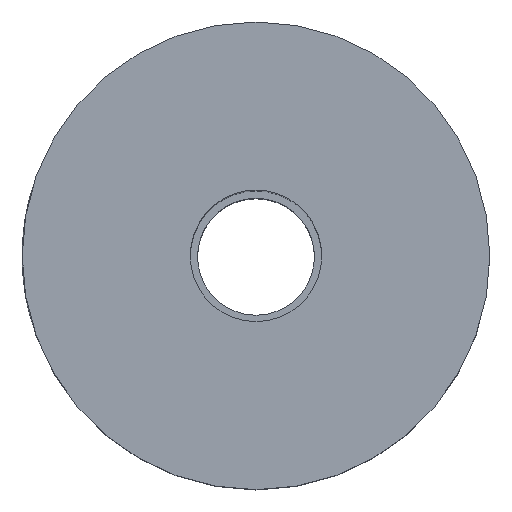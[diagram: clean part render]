
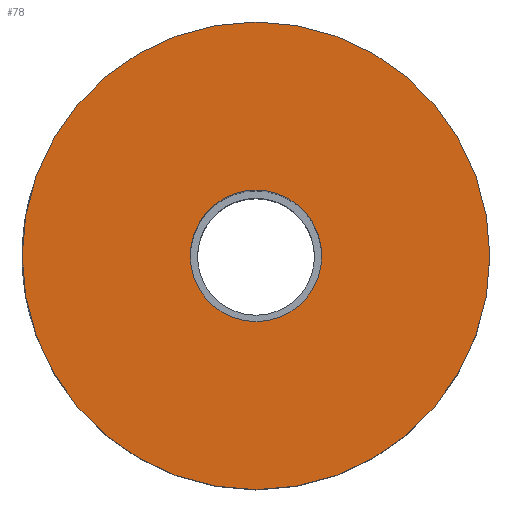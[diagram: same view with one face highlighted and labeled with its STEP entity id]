
A CAD part, top view. The second image highlights one B-rep face of the part: STEP entity #78.
In plain terms, the highlighted planar face has unit normal (0, 0, 1).
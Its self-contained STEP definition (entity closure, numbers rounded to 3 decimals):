
#37 = PLANE ( 'NONE',  #483 ) ;
#38 = EDGE_LOOP ( 'NONE', ( #229, #125 ) ) ;
#65 = CIRCLE ( 'NONE', #302, 2.25 ) ;
#78 = ADVANCED_FACE ( 'NONE', ( #370, #100 ), #37, .F. ) ;
#88 = EDGE_LOOP ( 'NONE', ( #418, #625 ) ) ;
#92 = CARTESIAN_POINT ( 'NONE',  ( 2.25, 0., 0. ) ) ;
#97 = CARTESIAN_POINT ( 'NONE',  ( 0., 0., 0. ) ) ;
#100 = FACE_OUTER_BOUND ( 'NONE', #38, .T. ) ;
#125 = ORIENTED_EDGE ( 'NONE', *, *, #471, .T. ) ;
#139 = AXIS2_PLACEMENT_3D ( 'NONE', #97, #573, #615 ) ;
#143 = DIRECTION ( 'NONE',  ( 0., 0., 1. ) ) ;
#159 = CIRCLE ( 'NONE', #452, 8. ) ;
#185 = VERTEX_POINT ( 'NONE', #551 ) ;
#198 = VERTEX_POINT ( 'NONE', #92 ) ;
#221 = EDGE_CURVE ( 'NONE', #473, #185, #159, .T. ) ;
#229 = ORIENTED_EDGE ( 'NONE', *, *, #221, .T. ) ;
#270 = AXIS2_PLACEMENT_3D ( 'NONE', #449, #143, #496 ) ;
#286 = DIRECTION ( 'NONE',  ( 0., 0., -1. ) ) ;
#288 = DIRECTION ( 'NONE',  ( 1., 0., 0. ) ) ;
#298 = CIRCLE ( 'NONE', #270, 8. ) ;
#302 = AXIS2_PLACEMENT_3D ( 'NONE', #583, #403, #454 ) ;
#311 = VERTEX_POINT ( 'NONE', #345 ) ;
#345 = CARTESIAN_POINT ( 'NONE',  ( -2.25, 0., 0. ) ) ;
#370 = FACE_BOUND ( 'NONE', #88, .T. ) ;
#403 = DIRECTION ( 'NONE',  ( 0., 0., 1. ) ) ;
#418 = ORIENTED_EDGE ( 'NONE', *, *, #612, .F. ) ;
#437 = EDGE_CURVE ( 'NONE', #311, #198, #65, .T. ) ;
#449 = CARTESIAN_POINT ( 'NONE',  ( 0., 0., 0. ) ) ;
#452 = AXIS2_PLACEMENT_3D ( 'NONE', #596, #546, #288 ) ;
#454 = DIRECTION ( 'NONE',  ( 1., 0., 0. ) ) ;
#471 = EDGE_CURVE ( 'NONE', #185, #473, #298, .T. ) ;
#473 = VERTEX_POINT ( 'NONE', #558 ) ;
#483 = AXIS2_PLACEMENT_3D ( 'NONE', #547, #286, #542 ) ;
#496 = DIRECTION ( 'NONE',  ( 1., 0., 0. ) ) ;
#542 = DIRECTION ( 'NONE',  ( -1., 0., 0. ) ) ;
#546 = DIRECTION ( 'NONE',  ( 0., 0., 1. ) ) ;
#547 = CARTESIAN_POINT ( 'NONE',  ( 0., 2.25, 0. ) ) ;
#551 = CARTESIAN_POINT ( 'NONE',  ( -8., 0., 0. ) ) ;
#558 = CARTESIAN_POINT ( 'NONE',  ( 8., 0., 0. ) ) ;
#573 = DIRECTION ( 'NONE',  ( 0., 0., 1. ) ) ;
#583 = CARTESIAN_POINT ( 'NONE',  ( 0., 0., 0. ) ) ;
#596 = CARTESIAN_POINT ( 'NONE',  ( 0., 0., 0. ) ) ;
#612 = EDGE_CURVE ( 'NONE', #198, #311, #653, .T. ) ;
#615 = DIRECTION ( 'NONE',  ( 1., 0., 0. ) ) ;
#625 = ORIENTED_EDGE ( 'NONE', *, *, #437, .F. ) ;
#653 = CIRCLE ( 'NONE', #139, 2.25 ) ;
